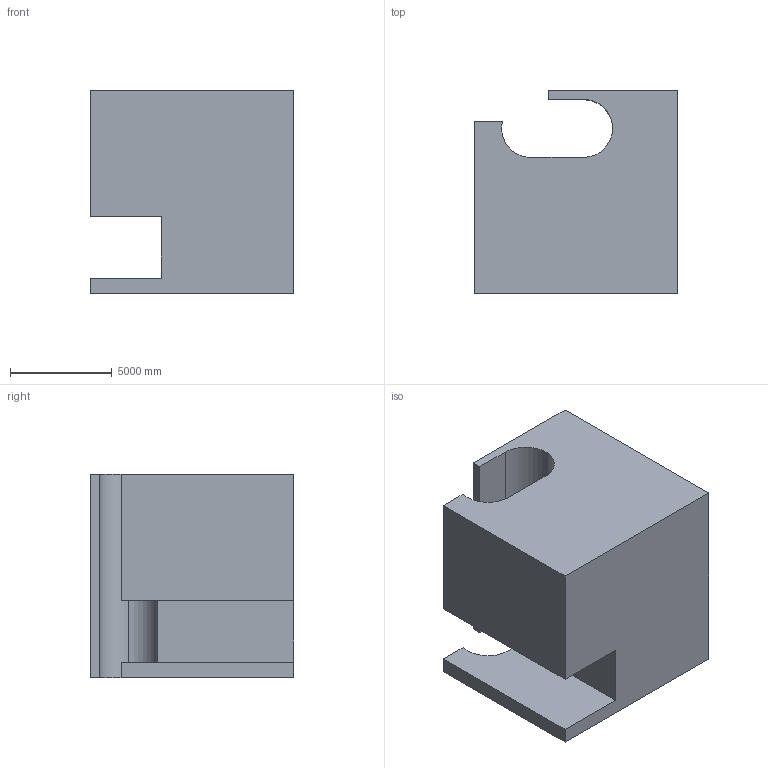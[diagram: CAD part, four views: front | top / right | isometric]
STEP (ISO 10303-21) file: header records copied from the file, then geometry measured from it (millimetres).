
FILE_DESCRIPTION (( 'STEP AP203' ), '1' );
FILE_NAME ('129.STEP', '2022-09-06T13:20:37', ( 'user' ), ( '' ), 'SwSTEP 2.0', 'SolidWorks 2021', '' );
FILE_SCHEMA (( 'CONFIG_CONTROL_DESIGN' ));
Length unit declared in the file: centimetre
Products named in the file (1): 129
Bounding box: 10000 x 10000 x 10000 mm (x, y, z)
Volume: 747440585182.6 mm3; surface area: 668900058.7 mm2
Topology: 1 solids, 1 shells, 19 faces, 51 edges, 34 vertices
Faces by surface type: plane 15, cylinder 4
Entity records: 670 total; most frequent: CARTESIAN_POINT 105, ORIENTED_EDGE 102, DIRECTION 99, EDGE_CURVE 51, VECTOR 43, LINE 43, VERTEX_POINT 34, AXIS2_PLACEMENT_3D 28
